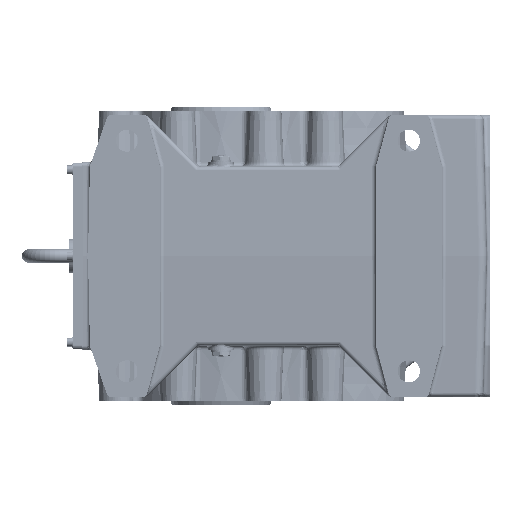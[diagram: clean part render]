
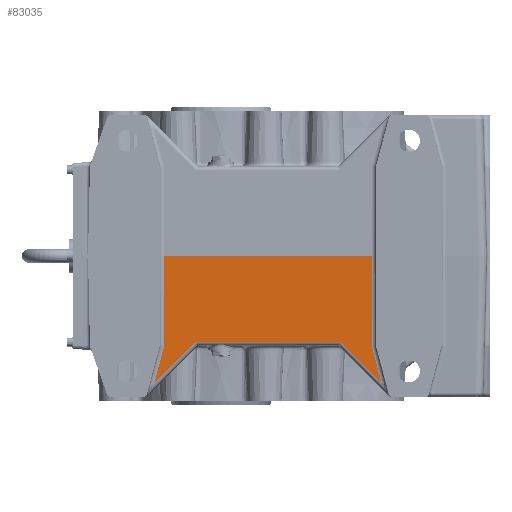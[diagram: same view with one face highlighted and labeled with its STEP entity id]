
A CAD part, left-side view. The second image highlights one B-rep face of the part: STEP entity #83035.
In plain terms, the highlighted planar face has unit normal (-1, 0, -0.026).
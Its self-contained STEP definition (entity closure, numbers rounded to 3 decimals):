
#58644=CARTESIAN_POINT('',(-192.128,-139.571,-100.131));
#58645=VERTEX_POINT('',#58644);
#58653=CARTESIAN_POINT('',(-192.128,29.571,-100.131));
#58654=VERTEX_POINT('',#58653);
#58655=CARTESIAN_POINT('',(-192.128,-139.571,-100.131));
#58656=DIRECTION('',(0.0,1.0,0.0));
#58657=VECTOR('',#58656,169.142);
#58658=LINE('',#58655,#58657);
#58659=EDGE_CURVE('',#58645,#58654,#58658,.T.);
#65039=CARTESIAN_POINT('',(-191.986,66.5,-105.524));
#65040=VERTEX_POINT('',#65039);
#65065=CARTESIAN_POINT('',(-194.75,66.5,0.0));
#65066=VERTEX_POINT('',#65065);
#65067=CARTESIAN_POINT('',(-191.986,66.5,-105.524));
#65068=DIRECTION('',(-0.026,0.0,1.));
#65069=VECTOR('',#65068,105.561);
#65070=LINE('',#65067,#65069);
#65071=EDGE_CURVE('',#65040,#65066,#65070,.T.);
#65098=CARTESIAN_POINT('',(-190.86,77.967,-148.527));
#65099=VERTEX_POINT('',#65098);
#65107=CARTESIAN_POINT('',(-190.86,77.967,-148.527));
#65108=DIRECTION('',(-0.025,-0.258,0.966));
#65109=VECTOR('',#65108,44.52);
#65110=LINE('',#65107,#65109);
#65111=EDGE_CURVE('',#65099,#65040,#65110,.T.);
#65565=CARTESIAN_POINT('',(-191.986,-176.5,-105.524));
#65566=VERTEX_POINT('',#65565);
#65660=CARTESIAN_POINT('',(-190.86,-187.967,-148.527));
#65661=VERTEX_POINT('',#65660);
#65662=CARTESIAN_POINT('',(-191.986,-176.5,-105.524));
#65663=DIRECTION('',(0.025,-0.258,-0.966));
#65664=VECTOR('',#65663,44.52);
#65665=LINE('',#65662,#65664);
#65666=EDGE_CURVE('',#65566,#65661,#65665,.T.);
#67108=CARTESIAN_POINT('',(-194.75,-176.5,0.0));
#67109=VERTEX_POINT('',#67108);
#67117=CARTESIAN_POINT('',(-194.75,-176.5,0.));
#67118=DIRECTION('',(0.026,0.0,-1.));
#67119=VECTOR('',#67118,105.561);
#67120=LINE('',#67117,#67119);
#67121=EDGE_CURVE('',#67109,#65566,#67120,.T.);
#69078=CARTESIAN_POINT('',(-190.86,-187.967,-148.527));
#69079=DIRECTION('',(-0.019,0.707,0.707));
#69080=VECTOR('',#69079,68.455);
#69081=LINE('',#69078,#69080);
#69082=EDGE_CURVE('',#65661,#58645,#69081,.T.);
#69255=CARTESIAN_POINT('',(-192.128,29.571,-100.131));
#69256=DIRECTION('',(0.019,0.707,-0.707));
#69257=VECTOR('',#69256,68.455);
#69258=LINE('',#69255,#69257);
#69259=EDGE_CURVE('',#58654,#65099,#69258,.T.);
#82989=CARTESIAN_POINT('',(-194.75,66.5,0.0));
#82990=DIRECTION('',(0.0,-1.0,0.0));
#82991=VECTOR('',#82990,243.0);
#82992=LINE('',#82989,#82991);
#82993=EDGE_CURVE('',#65066,#67109,#82992,.T.);
#83020=CARTESIAN_POINT('',(-194.749,-307.0,-0.036));
#83021=DIRECTION('',(1.,0.,0.026));
#83022=DIRECTION('',(0.026,0.,-1.));
#83023=AXIS2_PLACEMENT_3D('',#83020,#83021,#83022);
#83024=PLANE('',#83023);
#83025=ORIENTED_EDGE('',*,*,#65111,.F.);
#83026=ORIENTED_EDGE('',*,*,#69259,.F.);
#83027=ORIENTED_EDGE('',*,*,#58659,.F.);
#83028=ORIENTED_EDGE('',*,*,#69082,.F.);
#83029=ORIENTED_EDGE('',*,*,#65666,.F.);
#83030=ORIENTED_EDGE('',*,*,#67121,.F.);
#83031=ORIENTED_EDGE('',*,*,#82993,.F.);
#83032=ORIENTED_EDGE('',*,*,#65071,.F.);
#83033=EDGE_LOOP('',(#83025,#83026,#83027,#83028,#83029,#83030,#83031,#83032));
#83034=FACE_OUTER_BOUND('',#83033,.T.);
#83035=ADVANCED_FACE('',(#83034),#83024,.F.);
